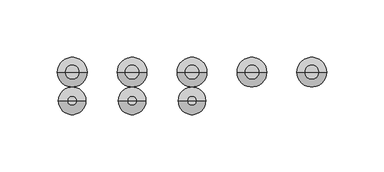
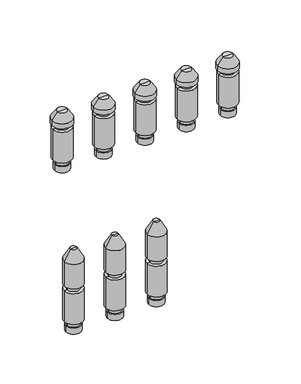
"""IFC4 building model written with IfcOpenShell, lengths in millimetres: valve geometry, PL AT_Manifold_FT-EV : 14 circuits."""

from ifc_helpers import new_model, si_unit, frame, origin, place, context, project, spatial, polyline, circle_curve, source, transform, mapped, element, save
from ifc_brep_helpers import plane_surface, cylinder_surface, revolved_surface, advanced_brep


def valve_3248c627(model_context):
    return source(origin(), model_context, "Body", "AdvancedBrep", [
        advanced_brep(
        [(189.4230769, 0.0, -35.11267), (208.4230769, 0.0, -35.11267), (198.9230769, 0.0, -35.11267), (189.4230769, 0.0, -27.0369646), (208.4230769, 0.0, -27.0369646), (190.9230769, 0.0, -27.0369646), (206.9230769, 0.0, -27.0369646), (190.9230769, 0.0, -20.330253), (206.9230769, 0.0, -20.330253), (186.9230769, 0.0, -20.330253), (210.9230769, 0.0, -20.330253), (186.9230769, 0.0, 20.330253), (210.9230769, 0.0, 20.330253), (190.9230769, 0.0, 20.330253), (206.9230769, 0.0, 20.330253), (190.9230769, 0.0, 27.0474786), (206.9230769, 0.0, 27.0474786), (186.9230769, 0.0, 27.0474786), (210.9230769, 0.0, 27.0474786), (186.9230769, 0.0, 59.4084325), (210.9230769, 0.0, 59.4084325), (194.9230769, 0.0, 73.264839), (202.9230769, 0.0, 73.264839), (198.9230769, 0.0, 73.264839)],
        [
            (0, 1, circle_curve(frame((198.9230769, 0.0, -35.11267), z_axis=(0.0, 0.0, -1.0), x_axis=(1.0, 0.0, 0.0)), 9.5)),
            (1, 2),
            (2, 0),
            (1, 0, circle_curve(frame((198.9230769, 0.0, -35.11267), z_axis=(0.0, 0.0, -1.0), x_axis=(1.0, 0.0, 0.0)), 9.5)),
            (3, 4, circle_curve(frame((198.9230769, 0.0, -27.0369646), z_axis=(0.0, 0.0, -1.0), x_axis=(1.0, 0.0, 0.0)), 9.5)),
            (4, 1),
            (0, 3),
            (4, 3, circle_curve(frame((198.9230769, 0.0, -27.0369646), z_axis=(0.0, 0.0, -1.0), x_axis=(1.0, 0.0, 0.0)), 9.5)),
            (5, 6, circle_curve(frame((198.9230769, 0.0, -27.0369646), z_axis=(0.0, 0.0, -1.0), x_axis=(1.0, 0.0, 0.0)), 8.0)),
            (6, 4),
            (3, 5),
            (6, 5, circle_curve(frame((198.9230769, 0.0, -27.0369646), z_axis=(0.0, 0.0, -1.0), x_axis=(1.0, 0.0, 0.0)), 8.0)),
            (7, 8, circle_curve(frame((198.9230769, 0.0, -20.330253), z_axis=(0.0, 0.0, -1.0), x_axis=(1.0, 0.0, 0.0)), 8.0)),
            (8, 6),
            (5, 7),
            (8, 7, circle_curve(frame((198.9230769, 0.0, -20.330253), z_axis=(0.0, 0.0, -1.0), x_axis=(1.0, 0.0, 0.0)), 8.0)),
            (9, 10, circle_curve(frame((198.9230769, 0.0, -20.330253), z_axis=(0.0, 0.0, -1.0), x_axis=(1.0, 0.0, 0.0)), 12.0)),
            (10, 8),
            (7, 9),
            (10, 9, circle_curve(frame((198.9230769, 0.0, -20.330253), z_axis=(0.0, 0.0, -1.0), x_axis=(1.0, 0.0, 0.0)), 12.0)),
            (11, 12, circle_curve(frame((198.9230769, 0.0, 20.330253), z_axis=(0.0, 0.0, -1.0), x_axis=(1.0, 0.0, 0.0)), 12.0)),
            (12, 10),
            (9, 11),
            (12, 11, circle_curve(frame((198.9230769, 0.0, 20.330253), z_axis=(0.0, 0.0, -1.0), x_axis=(1.0, 0.0, 0.0)), 12.0)),
            (13, 14, circle_curve(frame((198.9230769, 0.0, 20.330253), z_axis=(0.0, 0.0, -1.0), x_axis=(1.0, 0.0, 0.0)), 8.0)),
            (14, 12),
            (11, 13),
            (14, 13, circle_curve(frame((198.9230769, 0.0, 20.330253), z_axis=(0.0, 0.0, -1.0), x_axis=(1.0, 0.0, 0.0)), 8.0)),
            (15, 16, circle_curve(frame((198.9230769, 0.0, 27.0474786), z_axis=(0.0, 0.0, -1.0), x_axis=(1.0, 0.0, 0.0)), 8.0)),
            (16, 14),
            (13, 15),
            (16, 15, circle_curve(frame((198.9230769, 0.0, 27.0474786), z_axis=(0.0, 0.0, -1.0), x_axis=(1.0, 0.0, 0.0)), 8.0)),
            (17, 18, circle_curve(frame((198.9230769, 0.0, 27.0474786), z_axis=(0.0, 0.0, -1.0), x_axis=(1.0, 0.0, 0.0)), 12.0)),
            (18, 16),
            (15, 17),
            (18, 17, circle_curve(frame((198.9230769, 0.0, 27.0474786), z_axis=(0.0, 0.0, -1.0), x_axis=(1.0, 0.0, 0.0)), 12.0)),
            (19, 20, circle_curve(frame((198.9230769, 0.0, 59.4084325), z_axis=(0.0, 0.0, -1.0), x_axis=(1.0, 0.0, 0.0)), 12.0)),
            (20, 18),
            (17, 19),
            (20, 19, circle_curve(frame((198.9230769, 0.0, 59.4084325), z_axis=(0.0, 0.0, -1.0), x_axis=(1.0, 0.0, 0.0)), 12.0)),
            (21, 22, circle_curve(frame((198.9230769, 0.0, 73.264839), z_axis=(0.0, 0.0, -1.0), x_axis=(1.0, 0.0, 0.0)), 4.0)),
            (22, 20),
            (19, 21),
            (22, 21, circle_curve(frame((198.9230769, 0.0, 73.264839), z_axis=(0.0, 0.0, -1.0), x_axis=(1.0, 0.0, 0.0)), 4.0)),
            (23, 22),
            (21, 23),
        ],
        [
            plane_surface(frame((198.9230769, 0.0, -35.11267), z_axis=(0.0, 0.0, -1.0), x_axis=(1.0, 0.0, 0.0))),
            cylinder_surface(frame((198.9230769, 0.0, 58.264839), z_axis=(0.0, 0.0, 1.0), x_axis=(1.0, 0.0, 0.0)), 9.5),
            plane_surface(frame((198.9230769, 0.0, -27.0369646), z_axis=(0.0, 0.0, 1.0), x_axis=(1.0, 0.0, 0.0))),
            cylinder_surface(frame((198.9230769, 0.0, 58.264839), z_axis=(0.0, 0.0, 1.0), x_axis=(1.0, 0.0, 0.0)), 8.0),
            plane_surface(frame((198.9230769, 0.0, -20.330253), z_axis=(0.0, 0.0, -1.0), x_axis=(1.0, 0.0, 0.0))),
            cylinder_surface(frame((198.9230769, 0.0, 58.264839), z_axis=(0.0, 0.0, 1.0), x_axis=(1.0, 0.0, 0.0)), 12.0),
            plane_surface(frame((198.9230769, 0.0, 20.330253), z_axis=(0.0, 0.0, 1.0), x_axis=(1.0, 0.0, 0.0))),
            plane_surface(frame((198.9230769, 0.0, 27.0474786), z_axis=(0.0, 0.0, -1.0), x_axis=(1.0, 0.0, 0.0))),
            revolved_surface(polyline([(210.9230769, 0.0, 59.4084325), (202.9230769, 0.0, 73.264839)]), (198.9230769, 0.0, 58.264839), (0.0, 0.0, 1.0)),
            plane_surface(frame((198.9230769, 0.0, 73.264839), z_axis=(0.0, 0.0, 1.0), x_axis=(1.0, 0.0, 0.0))),
        ],
        [
            (0, [[1, 2, 3]]),
            (0, [[4, -3, -2]]),
            (1, [[5, 6, -1, 7]]),
            (1, [[8, -7, -4, -6]]),
            (2, [[9, 10, -5, 11]]),
            (2, [[12, -11, -8, -10]]),
            (3, [[13, 14, -9, 15]]),
            (3, [[16, -15, -12, -14]]),
            (4, [[17, 18, -13, 19]]),
            (4, [[20, -19, -16, -18]]),
            (5, [[21, 22, -17, 23]]),
            (5, [[24, -23, -20, -22]]),
            (6, [[25, 26, -21, 27]]),
            (6, [[28, -27, -24, -26]]),
            (3, [[29, 30, -25, 31]]),
            (3, [[32, -31, -28, -30]]),
            (7, [[33, 34, -29, 35]]),
            (7, [[36, -35, -32, -34]]),
            (5, [[37, 38, -33, 39]]),
            (5, [[40, -39, -36, -38]]),
            (8, [[41, 42, -37, 43]]),
            (8, [[44, -43, -40, -42]]),
            (9, [[45, -41, 46]]),
            (9, [[-46, -44, -45]]),
        ],
    ),
        advanced_brep(
        [(137.1153846, 0.0, -35.11267), (156.1153846, 0.0, -35.11267), (146.6153846, 0.0, -35.11267), (137.1153846, 0.0, -27.0369646), (156.1153846, 0.0, -27.0369646), (138.6153846, 0.0, -27.0369646), (154.6153846, 0.0, -27.0369646), (138.6153846, 0.0, -20.330253), (154.6153846, 0.0, -20.330253), (134.6153846, 0.0, -20.330253), (158.6153846, 0.0, -20.330253), (134.6153846, 0.0, 20.330253), (158.6153846, 0.0, 20.330253), (138.6153846, 0.0, 20.330253), (154.6153846, 0.0, 20.330253), (138.6153846, 0.0, 27.0474786), (154.6153846, 0.0, 27.0474786), (134.6153846, 0.0, 27.0474786), (158.6153846, 0.0, 27.0474786), (134.6153846, 0.0, 59.4084325), (158.6153846, 0.0, 59.4084325), (142.6153846, 0.0, 73.264839), (150.6153846, 0.0, 73.264839), (146.6153846, 0.0, 73.264839)],
        [
            (0, 1, circle_curve(frame((146.6153846, 0.0, -35.11267), z_axis=(0.0, 0.0, -1.0), x_axis=(1.0, 0.0, 0.0)), 9.5)),
            (1, 2),
            (2, 0),
            (1, 0, circle_curve(frame((146.6153846, 0.0, -35.11267), z_axis=(0.0, 0.0, -1.0), x_axis=(1.0, 0.0, 0.0)), 9.5)),
            (3, 4, circle_curve(frame((146.6153846, 0.0, -27.0369646), z_axis=(0.0, 0.0, -1.0), x_axis=(1.0, 0.0, 0.0)), 9.5)),
            (4, 1),
            (0, 3),
            (4, 3, circle_curve(frame((146.6153846, 0.0, -27.0369646), z_axis=(0.0, 0.0, -1.0), x_axis=(1.0, 0.0, 0.0)), 9.5)),
            (5, 6, circle_curve(frame((146.6153846, 0.0, -27.0369646), z_axis=(0.0, 0.0, -1.0), x_axis=(1.0, 0.0, 0.0)), 8.0)),
            (6, 4),
            (3, 5),
            (6, 5, circle_curve(frame((146.6153846, 0.0, -27.0369646), z_axis=(0.0, 0.0, -1.0), x_axis=(1.0, 0.0, 0.0)), 8.0)),
            (7, 8, circle_curve(frame((146.6153846, 0.0, -20.330253), z_axis=(0.0, 0.0, -1.0), x_axis=(1.0, 0.0, 0.0)), 8.0)),
            (8, 6),
            (5, 7),
            (8, 7, circle_curve(frame((146.6153846, 0.0, -20.330253), z_axis=(0.0, 0.0, -1.0), x_axis=(1.0, 0.0, 0.0)), 8.0)),
            (9, 10, circle_curve(frame((146.6153846, 0.0, -20.330253), z_axis=(0.0, 0.0, -1.0), x_axis=(1.0, 0.0, 0.0)), 12.0)),
            (10, 8),
            (7, 9),
            (10, 9, circle_curve(frame((146.6153846, 0.0, -20.330253), z_axis=(0.0, 0.0, -1.0), x_axis=(1.0, 0.0, 0.0)), 12.0)),
            (11, 12, circle_curve(frame((146.6153846, 0.0, 20.330253), z_axis=(0.0, 0.0, -1.0), x_axis=(1.0, 0.0, 0.0)), 12.0)),
            (12, 10),
            (9, 11),
            (12, 11, circle_curve(frame((146.6153846, 0.0, 20.330253), z_axis=(0.0, 0.0, -1.0), x_axis=(1.0, 0.0, 0.0)), 12.0)),
            (13, 14, circle_curve(frame((146.6153846, 0.0, 20.330253), z_axis=(0.0, 0.0, -1.0), x_axis=(1.0, 0.0, 0.0)), 8.0)),
            (14, 12),
            (11, 13),
            (14, 13, circle_curve(frame((146.6153846, 0.0, 20.330253), z_axis=(0.0, 0.0, -1.0), x_axis=(1.0, 0.0, 0.0)), 8.0)),
            (15, 16, circle_curve(frame((146.6153846, 0.0, 27.0474786), z_axis=(0.0, 0.0, -1.0), x_axis=(1.0, 0.0, 0.0)), 8.0)),
            (16, 14),
            (13, 15),
            (16, 15, circle_curve(frame((146.6153846, 0.0, 27.0474786), z_axis=(0.0, 0.0, -1.0), x_axis=(1.0, 0.0, 0.0)), 8.0)),
            (17, 18, circle_curve(frame((146.6153846, 0.0, 27.0474786), z_axis=(0.0, 0.0, -1.0), x_axis=(1.0, 0.0, 0.0)), 12.0)),
            (18, 16),
            (15, 17),
            (18, 17, circle_curve(frame((146.6153846, 0.0, 27.0474786), z_axis=(0.0, 0.0, -1.0), x_axis=(1.0, 0.0, 0.0)), 12.0)),
            (19, 20, circle_curve(frame((146.6153846, 0.0, 59.4084325), z_axis=(0.0, 0.0, -1.0), x_axis=(1.0, 0.0, 0.0)), 12.0)),
            (20, 18),
            (17, 19),
            (20, 19, circle_curve(frame((146.6153846, 0.0, 59.4084325), z_axis=(0.0, 0.0, -1.0), x_axis=(1.0, 0.0, 0.0)), 12.0)),
            (21, 22, circle_curve(frame((146.6153846, 0.0, 73.264839), z_axis=(0.0, 0.0, -1.0), x_axis=(1.0, 0.0, 0.0)), 4.0)),
            (22, 20),
            (19, 21),
            (22, 21, circle_curve(frame((146.6153846, 0.0, 73.264839), z_axis=(0.0, 0.0, -1.0), x_axis=(1.0, 0.0, 0.0)), 4.0)),
            (23, 22),
            (21, 23),
        ],
        [
            plane_surface(frame((146.6153846, 0.0, -35.11267), z_axis=(0.0, 0.0, -1.0), x_axis=(1.0, 0.0, 0.0))),
            cylinder_surface(frame((146.6153846, 0.0, 58.264839), z_axis=(0.0, 0.0, 1.0), x_axis=(1.0, 0.0, 0.0)), 9.5),
            plane_surface(frame((146.6153846, 0.0, -27.0369646), z_axis=(0.0, 0.0, 1.0), x_axis=(1.0, 0.0, 0.0))),
            cylinder_surface(frame((146.6153846, 0.0, 58.264839), z_axis=(0.0, 0.0, 1.0), x_axis=(1.0, 0.0, 0.0)), 8.0),
            plane_surface(frame((146.6153846, 0.0, -20.330253), z_axis=(0.0, 0.0, -1.0), x_axis=(1.0, 0.0, 0.0))),
            cylinder_surface(frame((146.6153846, 0.0, 58.264839), z_axis=(0.0, 0.0, 1.0), x_axis=(1.0, 0.0, 0.0)), 12.0),
            plane_surface(frame((146.6153846, 0.0, 20.330253), z_axis=(0.0, 0.0, 1.0), x_axis=(1.0, 0.0, 0.0))),
            plane_surface(frame((146.6153846, 0.0, 27.0474786), z_axis=(0.0, 0.0, -1.0), x_axis=(1.0, 0.0, 0.0))),
            revolved_surface(polyline([(158.6153846, 0.0, 59.4084325), (150.6153846, 0.0, 73.264839)]), (146.6153846, 0.0, 58.264839), (0.0, 0.0, 1.0)),
            plane_surface(frame((146.6153846, 0.0, 73.264839), z_axis=(0.0, 0.0, 1.0), x_axis=(1.0, 0.0, 0.0))),
        ],
        [
            (0, [[1, 2, 3]]),
            (0, [[4, -3, -2]]),
            (1, [[5, 6, -1, 7]]),
            (1, [[8, -7, -4, -6]]),
            (2, [[9, 10, -5, 11]]),
            (2, [[12, -11, -8, -10]]),
            (3, [[13, 14, -9, 15]]),
            (3, [[16, -15, -12, -14]]),
            (4, [[17, 18, -13, 19]]),
            (4, [[20, -19, -16, -18]]),
            (5, [[21, 22, -17, 23]]),
            (5, [[24, -23, -20, -22]]),
            (6, [[25, 26, -21, 27]]),
            (6, [[28, -27, -24, -26]]),
            (3, [[29, 30, -25, 31]]),
            (3, [[32, -31, -28, -30]]),
            (7, [[33, 34, -29, 35]]),
            (7, [[36, -35, -32, -34]]),
            (5, [[37, 38, -33, 39]]),
            (5, [[40, -39, -36, -38]]),
            (8, [[41, 42, -37, 43]]),
            (8, [[44, -43, -40, -42]]),
            (9, [[45, -41, 46]]),
            (9, [[-46, -44, -45]]),
        ],
    ),
        advanced_brep(
        [(294.0384615, 25.0, 164.88733), (313.0384615, 25.0, 164.88733), (303.5384615, 25.0, 164.88733), (294.0384615, 25.0, 172.9630354), (313.0384615, 25.0, 172.9630354), (295.5384615, 25.0, 172.9630354), (311.5384615, 25.0, 172.9630354), (295.5384615, 25.0, 179.669747), (311.5384615, 25.0, 179.669747), (291.5384615, 25.0, 179.669747), (315.5384615, 25.0, 179.669747), (291.5384615, 25.0, 220.330253), (315.5384615, 25.0, 220.330253), (295.5384615, 25.0, 220.330253), (311.5384615, 25.0, 220.330253), (295.5384615, 25.0, 226.0474786), (311.5384615, 25.0, 226.0474786), (290.5384615, 25.0, 226.0474786), (316.5384615, 25.0, 226.0474786), (290.5384615, 25.0, 232.337955), (316.5384615, 25.0, 232.337955), (297.1936394, 25.0, 241.842534), (309.8832837, 25.0, 241.842534), (303.5384615, 25.0, 241.842534)],
        [
            (0, 1, circle_curve(frame((303.5384615, 25.0, 164.88733), z_axis=(0.0, 0.0, -1.0), x_axis=(1.0, 0.0, 0.0)), 9.5)),
            (1, 2),
            (2, 0),
            (1, 0, circle_curve(frame((303.5384615, 25.0, 164.88733), z_axis=(0.0, 0.0, -1.0), x_axis=(1.0, 0.0, 0.0)), 9.5)),
            (3, 4, circle_curve(frame((303.5384615, 25.0, 172.9630354), z_axis=(0.0, 0.0, -1.0), x_axis=(1.0, 0.0, 0.0)), 9.5)),
            (4, 1),
            (0, 3),
            (4, 3, circle_curve(frame((303.5384615, 25.0, 172.9630354), z_axis=(0.0, 0.0, -1.0), x_axis=(1.0, 0.0, 0.0)), 9.5)),
            (5, 6, circle_curve(frame((303.5384615, 25.0, 172.9630354), z_axis=(0.0, 0.0, -1.0), x_axis=(1.0, 0.0, 0.0)), 8.0)),
            (6, 4),
            (3, 5),
            (6, 5, circle_curve(frame((303.5384615, 25.0, 172.9630354), z_axis=(0.0, 0.0, -1.0), x_axis=(1.0, 0.0, 0.0)), 8.0)),
            (7, 8, circle_curve(frame((303.5384615, 25.0, 179.669747), z_axis=(0.0, 0.0, -1.0), x_axis=(1.0, 0.0, 0.0)), 8.0)),
            (8, 6),
            (5, 7),
            (8, 7, circle_curve(frame((303.5384615, 25.0, 179.669747), z_axis=(0.0, 0.0, -1.0), x_axis=(1.0, 0.0, 0.0)), 8.0)),
            (9, 10, circle_curve(frame((303.5384615, 25.0, 179.669747), z_axis=(0.0, 0.0, -1.0), x_axis=(1.0, 0.0, 0.0)), 12.0)),
            (10, 8),
            (7, 9),
            (10, 9, circle_curve(frame((303.5384615, 25.0, 179.669747), z_axis=(0.0, 0.0, -1.0), x_axis=(1.0, 0.0, 0.0)), 12.0)),
            (11, 12, circle_curve(frame((303.5384615, 25.0, 220.330253), z_axis=(0.0, 0.0, -1.0), x_axis=(1.0, 0.0, 0.0)), 12.0)),
            (12, 10),
            (9, 11),
            (12, 11, circle_curve(frame((303.5384615, 25.0, 220.330253), z_axis=(0.0, 0.0, -1.0), x_axis=(1.0, 0.0, 0.0)), 12.0)),
            (13, 14, circle_curve(frame((303.5384615, 25.0, 220.330253), z_axis=(0.0, 0.0, -1.0), x_axis=(1.0, 0.0, 0.0)), 8.0)),
            (14, 12),
            (11, 13),
            (14, 13, circle_curve(frame((303.5384615, 25.0, 220.330253), z_axis=(0.0, 0.0, -1.0), x_axis=(1.0, 0.0, 0.0)), 8.0)),
            (15, 16, circle_curve(frame((303.5384615, 25.0, 226.0474786), z_axis=(0.0, 0.0, -1.0), x_axis=(1.0, 0.0, 0.0)), 8.0)),
            (16, 14),
            (13, 15),
            (16, 15, circle_curve(frame((303.5384615, 25.0, 226.0474786), z_axis=(0.0, 0.0, -1.0), x_axis=(1.0, 0.0, 0.0)), 8.0)),
            (17, 18, circle_curve(frame((303.5384615, 25.0, 226.0474786), z_axis=(0.0, 0.0, -1.0), x_axis=(1.0, 0.0, 0.0)), 13.0)),
            (18, 16),
            (15, 17),
            (18, 17, circle_curve(frame((303.5384615, 25.0, 226.0474786), z_axis=(0.0, 0.0, -1.0), x_axis=(1.0, 0.0, 0.0)), 13.0)),
            (19, 20, circle_curve(frame((303.5384615, 25.0, 232.337955), z_axis=(0.0, 0.0, -1.0), x_axis=(1.0, 0.0, 0.0)), 13.0)),
            (20, 18),
            (17, 19),
            (20, 19, circle_curve(frame((303.5384615, 25.0, 232.337955), z_axis=(0.0, 0.0, -1.0), x_axis=(1.0, 0.0, 0.0)), 13.0)),
            (21, 22, circle_curve(frame((303.5384615, 25.0, 241.842534), z_axis=(0.0, 0.0, -1.0), x_axis=(1.0, 0.0, 0.0)), 6.3448221)),
            (22, 20),
            (19, 21),
            (22, 21, circle_curve(frame((303.5384615, 25.0, 241.842534), z_axis=(0.0, 0.0, -1.0), x_axis=(1.0, 0.0, 0.0)), 6.3448221)),
            (23, 22),
            (21, 23),
        ],
        [
            plane_surface(frame((303.5384615, 25.0, 164.88733), z_axis=(0.0, 0.0, -1.0), x_axis=(1.0, 0.0, 0.0))),
            cylinder_surface(frame((303.5384615, 25.0, 237.7026565), z_axis=(0.0, 0.0, 1.0), x_axis=(1.0, 0.0, 0.0)), 9.5),
            plane_surface(frame((303.5384615, 25.0, 172.9630354), z_axis=(0.0, 0.0, 1.0), x_axis=(1.0, 0.0, 0.0))),
            cylinder_surface(frame((303.5384615, 25.0, 237.7026565), z_axis=(0.0, 0.0, 1.0), x_axis=(1.0, 0.0, 0.0)), 8.0),
            plane_surface(frame((303.5384615, 25.0, 179.669747), z_axis=(0.0, 0.0, -1.0), x_axis=(1.0, 0.0, 0.0))),
            cylinder_surface(frame((303.5384615, 25.0, 237.7026565), z_axis=(0.0, 0.0, 1.0), x_axis=(1.0, 0.0, 0.0)), 12.0),
            plane_surface(frame((303.5384615, 25.0, 220.330253), z_axis=(0.0, 0.0, 1.0), x_axis=(1.0, 0.0, 0.0))),
            plane_surface(frame((303.5384615, 25.0, 226.0474786), z_axis=(0.0, 0.0, -1.0), x_axis=(1.0, 0.0, 0.0))),
            cylinder_surface(frame((303.5384615, 25.0, 237.7026565), z_axis=(0.0, 0.0, 1.0), x_axis=(1.0, 0.0, 0.0)), 13.0),
            revolved_surface(polyline([(316.5384615, 25.0, 232.337955), (309.8832837, 25.0, 241.842534)]), (303.5384615, 25.0, 237.7026565), (0.0, 0.0, 1.0)),
            plane_surface(frame((303.5384615, 25.0, 241.842534), z_axis=(0.0, 0.0, 1.0), x_axis=(1.0, 0.0, 0.0))),
        ],
        [
            (0, [[1, 2, 3]]),
            (0, [[4, -3, -2]]),
            (1, [[5, 6, -1, 7]]),
            (1, [[8, -7, -4, -6]]),
            (2, [[9, 10, -5, 11]]),
            (2, [[12, -11, -8, -10]]),
            (3, [[13, 14, -9, 15]]),
            (3, [[16, -15, -12, -14]]),
            (4, [[17, 18, -13, 19]]),
            (4, [[20, -19, -16, -18]]),
            (5, [[21, 22, -17, 23]]),
            (5, [[24, -23, -20, -22]]),
            (6, [[25, 26, -21, 27]]),
            (6, [[28, -27, -24, -26]]),
            (3, [[29, 30, -25, 31]]),
            (3, [[32, -31, -28, -30]]),
            (7, [[33, 34, -29, 35]]),
            (7, [[36, -35, -32, -34]]),
            (8, [[37, 38, -33, 39]]),
            (8, [[40, -39, -36, -38]]),
            (9, [[41, 42, -37, 43]]),
            (9, [[44, -43, -40, -42]]),
            (10, [[45, -41, 46]]),
            (10, [[-46, -44, -45]]),
        ],
    ),
        advanced_brep(
        [(241.7307692, 25.0, 164.88733), (260.7307692, 25.0, 164.88733), (251.2307692, 25.0, 164.88733), (241.7307692, 25.0, 172.9630354), (260.7307692, 25.0, 172.9630354), (243.2307692, 25.0, 172.9630354), (259.2307692, 25.0, 172.9630354), (243.2307692, 25.0, 179.669747), (259.2307692, 25.0, 179.669747), (239.2307692, 25.0, 179.669747), (263.2307692, 25.0, 179.669747), (239.2307692, 25.0, 220.330253), (263.2307692, 25.0, 220.330253), (243.2307692, 25.0, 220.330253), (259.2307692, 25.0, 220.330253), (243.2307692, 25.0, 226.0474786), (259.2307692, 25.0, 226.0474786), (238.2307692, 25.0, 226.0474786), (264.2307692, 25.0, 226.0474786), (238.2307692, 25.0, 232.337955), (264.2307692, 25.0, 232.337955), (244.8859471, 25.0, 241.842534), (257.5755914, 25.0, 241.842534), (251.2307692, 25.0, 241.842534)],
        [
            (0, 1, circle_curve(frame((251.2307692, 25.0, 164.88733), z_axis=(0.0, 0.0, -1.0), x_axis=(1.0, 0.0, 0.0)), 9.5)),
            (1, 2),
            (2, 0),
            (1, 0, circle_curve(frame((251.2307692, 25.0, 164.88733), z_axis=(0.0, 0.0, -1.0), x_axis=(1.0, 0.0, 0.0)), 9.5)),
            (3, 4, circle_curve(frame((251.2307692, 25.0, 172.9630354), z_axis=(0.0, 0.0, -1.0), x_axis=(1.0, 0.0, 0.0)), 9.5)),
            (4, 1),
            (0, 3),
            (4, 3, circle_curve(frame((251.2307692, 25.0, 172.9630354), z_axis=(0.0, 0.0, -1.0), x_axis=(1.0, 0.0, 0.0)), 9.5)),
            (5, 6, circle_curve(frame((251.2307692, 25.0, 172.9630354), z_axis=(0.0, 0.0, -1.0), x_axis=(1.0, 0.0, 0.0)), 8.0)),
            (6, 4),
            (3, 5),
            (6, 5, circle_curve(frame((251.2307692, 25.0, 172.9630354), z_axis=(0.0, 0.0, -1.0), x_axis=(1.0, 0.0, 0.0)), 8.0)),
            (7, 8, circle_curve(frame((251.2307692, 25.0, 179.669747), z_axis=(0.0, 0.0, -1.0), x_axis=(1.0, 0.0, 0.0)), 8.0)),
            (8, 6),
            (5, 7),
            (8, 7, circle_curve(frame((251.2307692, 25.0, 179.669747), z_axis=(0.0, 0.0, -1.0), x_axis=(1.0, 0.0, 0.0)), 8.0)),
            (9, 10, circle_curve(frame((251.2307692, 25.0, 179.669747), z_axis=(0.0, 0.0, -1.0), x_axis=(1.0, 0.0, 0.0)), 12.0)),
            (10, 8),
            (7, 9),
            (10, 9, circle_curve(frame((251.2307692, 25.0, 179.669747), z_axis=(0.0, 0.0, -1.0), x_axis=(1.0, 0.0, 0.0)), 12.0)),
            (11, 12, circle_curve(frame((251.2307692, 25.0, 220.330253), z_axis=(0.0, 0.0, -1.0), x_axis=(1.0, 0.0, 0.0)), 12.0)),
            (12, 10),
            (9, 11),
            (12, 11, circle_curve(frame((251.2307692, 25.0, 220.330253), z_axis=(0.0, 0.0, -1.0), x_axis=(1.0, 0.0, 0.0)), 12.0)),
            (13, 14, circle_curve(frame((251.2307692, 25.0, 220.330253), z_axis=(0.0, 0.0, -1.0), x_axis=(1.0, 0.0, 0.0)), 8.0)),
            (14, 12),
            (11, 13),
            (14, 13, circle_curve(frame((251.2307692, 25.0, 220.330253), z_axis=(0.0, 0.0, -1.0), x_axis=(1.0, 0.0, 0.0)), 8.0)),
            (15, 16, circle_curve(frame((251.2307692, 25.0, 226.0474786), z_axis=(0.0, 0.0, -1.0), x_axis=(1.0, 0.0, 0.0)), 8.0)),
            (16, 14),
            (13, 15),
            (16, 15, circle_curve(frame((251.2307692, 25.0, 226.0474786), z_axis=(0.0, 0.0, -1.0), x_axis=(1.0, 0.0, 0.0)), 8.0)),
            (17, 18, circle_curve(frame((251.2307692, 25.0, 226.0474786), z_axis=(0.0, 0.0, -1.0), x_axis=(1.0, 0.0, 0.0)), 13.0)),
            (18, 16),
            (15, 17),
            (18, 17, circle_curve(frame((251.2307692, 25.0, 226.0474786), z_axis=(0.0, 0.0, -1.0), x_axis=(1.0, 0.0, 0.0)), 13.0)),
            (19, 20, circle_curve(frame((251.2307692, 25.0, 232.337955), z_axis=(0.0, 0.0, -1.0), x_axis=(1.0, 0.0, 0.0)), 13.0)),
            (20, 18),
            (17, 19),
            (20, 19, circle_curve(frame((251.2307692, 25.0, 232.337955), z_axis=(0.0, 0.0, -1.0), x_axis=(1.0, 0.0, 0.0)), 13.0)),
            (21, 22, circle_curve(frame((251.2307692, 25.0, 241.842534), z_axis=(0.0, 0.0, -1.0), x_axis=(1.0, 0.0, 0.0)), 6.3448221)),
            (22, 20),
            (19, 21),
            (22, 21, circle_curve(frame((251.2307692, 25.0, 241.842534), z_axis=(0.0, 0.0, -1.0), x_axis=(1.0, 0.0, 0.0)), 6.3448221)),
            (23, 22),
            (21, 23),
        ],
        [
            plane_surface(frame((251.2307692, 25.0, 164.88733), z_axis=(0.0, 0.0, -1.0), x_axis=(1.0, 0.0, 0.0))),
            cylinder_surface(frame((251.2307692, 25.0, 237.7026565), z_axis=(0.0, 0.0, 1.0), x_axis=(1.0, 0.0, 0.0)), 9.5),
            plane_surface(frame((251.2307692, 25.0, 172.9630354), z_axis=(0.0, 0.0, 1.0), x_axis=(1.0, 0.0, 0.0))),
            cylinder_surface(frame((251.2307692, 25.0, 237.7026565), z_axis=(0.0, 0.0, 1.0), x_axis=(1.0, 0.0, 0.0)), 8.0),
            plane_surface(frame((251.2307692, 25.0, 179.669747), z_axis=(0.0, 0.0, -1.0), x_axis=(1.0, 0.0, 0.0))),
            cylinder_surface(frame((251.2307692, 25.0, 237.7026565), z_axis=(0.0, 0.0, 1.0), x_axis=(1.0, 0.0, 0.0)), 12.0),
            plane_surface(frame((251.2307692, 25.0, 220.330253), z_axis=(0.0, 0.0, 1.0), x_axis=(1.0, 0.0, 0.0))),
            plane_surface(frame((251.2307692, 25.0, 226.0474786), z_axis=(0.0, 0.0, -1.0), x_axis=(1.0, 0.0, 0.0))),
            cylinder_surface(frame((251.2307692, 25.0, 237.7026565), z_axis=(0.0, 0.0, 1.0), x_axis=(1.0, 0.0, 0.0)), 13.0),
            revolved_surface(polyline([(264.2307692, 25.0, 232.337955), (257.5755914, 25.0, 241.842534)]), (251.2307692, 25.0, 237.7026565), (0.0, 0.0, 1.0)),
            plane_surface(frame((251.2307692, 25.0, 241.842534), z_axis=(0.0, 0.0, 1.0), x_axis=(1.0, 0.0, 0.0))),
        ],
        [
            (0, [[1, 2, 3]]),
            (0, [[4, -3, -2]]),
            (1, [[5, 6, -1, 7]]),
            (1, [[8, -7, -4, -6]]),
            (2, [[9, 10, -5, 11]]),
            (2, [[12, -11, -8, -10]]),
            (3, [[13, 14, -9, 15]]),
            (3, [[16, -15, -12, -14]]),
            (4, [[17, 18, -13, 19]]),
            (4, [[20, -19, -16, -18]]),
            (5, [[21, 22, -17, 23]]),
            (5, [[24, -23, -20, -22]]),
            (6, [[25, 26, -21, 27]]),
            (6, [[28, -27, -24, -26]]),
            (3, [[29, 30, -25, 31]]),
            (3, [[32, -31, -28, -30]]),
            (7, [[33, 34, -29, 35]]),
            (7, [[36, -35, -32, -34]]),
            (8, [[37, 38, -33, 39]]),
            (8, [[40, -39, -36, -38]]),
            (9, [[41, 42, -37, 43]]),
            (9, [[44, -43, -40, -42]]),
            (10, [[45, -41, 46]]),
            (10, [[-46, -44, -45]]),
        ],
    ),
        advanced_brep(
        [(189.4230769, 25.0, 164.88733), (208.4230769, 25.0, 164.88733), (198.9230769, 25.0, 164.88733), (189.4230769, 25.0, 172.9630354), (208.4230769, 25.0, 172.9630354), (190.9230769, 25.0, 172.9630354), (206.9230769, 25.0, 172.9630354), (190.9230769, 25.0, 179.669747), (206.9230769, 25.0, 179.669747), (186.9230769, 25.0, 179.669747), (210.9230769, 25.0, 179.669747), (186.9230769, 25.0, 220.330253), (210.9230769, 25.0, 220.330253), (190.9230769, 25.0, 220.330253), (206.9230769, 25.0, 220.330253), (190.9230769, 25.0, 226.0474786), (206.9230769, 25.0, 226.0474786), (185.9230769, 25.0, 226.0474786), (211.9230769, 25.0, 226.0474786), (185.9230769, 25.0, 232.337955), (211.9230769, 25.0, 232.337955), (192.5782548, 25.0, 241.842534), (205.267899, 25.0, 241.842534), (198.9230769, 25.0, 241.842534)],
        [
            (0, 1, circle_curve(frame((198.9230769, 25.0, 164.88733), z_axis=(0.0, 0.0, -1.0), x_axis=(1.0, 0.0, 0.0)), 9.5)),
            (1, 2),
            (2, 0),
            (1, 0, circle_curve(frame((198.9230769, 25.0, 164.88733), z_axis=(0.0, 0.0, -1.0), x_axis=(1.0, 0.0, 0.0)), 9.5)),
            (3, 4, circle_curve(frame((198.9230769, 25.0, 172.9630354), z_axis=(0.0, 0.0, -1.0), x_axis=(1.0, 0.0, 0.0)), 9.5)),
            (4, 1),
            (0, 3),
            (4, 3, circle_curve(frame((198.9230769, 25.0, 172.9630354), z_axis=(0.0, 0.0, -1.0), x_axis=(1.0, 0.0, 0.0)), 9.5)),
            (5, 6, circle_curve(frame((198.9230769, 25.0, 172.9630354), z_axis=(0.0, 0.0, -1.0), x_axis=(1.0, 0.0, 0.0)), 8.0)),
            (6, 4),
            (3, 5),
            (6, 5, circle_curve(frame((198.9230769, 25.0, 172.9630354), z_axis=(0.0, 0.0, -1.0), x_axis=(1.0, 0.0, 0.0)), 8.0)),
            (7, 8, circle_curve(frame((198.9230769, 25.0, 179.669747), z_axis=(0.0, 0.0, -1.0), x_axis=(1.0, 0.0, 0.0)), 8.0)),
            (8, 6),
            (5, 7),
            (8, 7, circle_curve(frame((198.9230769, 25.0, 179.669747), z_axis=(0.0, 0.0, -1.0), x_axis=(1.0, 0.0, 0.0)), 8.0)),
            (9, 10, circle_curve(frame((198.9230769, 25.0, 179.669747), z_axis=(0.0, 0.0, -1.0), x_axis=(1.0, 0.0, 0.0)), 12.0)),
            (10, 8),
            (7, 9),
            (10, 9, circle_curve(frame((198.9230769, 25.0, 179.669747), z_axis=(0.0, 0.0, -1.0), x_axis=(1.0, 0.0, 0.0)), 12.0)),
            (11, 12, circle_curve(frame((198.9230769, 25.0, 220.330253), z_axis=(0.0, 0.0, -1.0), x_axis=(1.0, 0.0, 0.0)), 12.0)),
            (12, 10),
            (9, 11),
            (12, 11, circle_curve(frame((198.9230769, 25.0, 220.330253), z_axis=(0.0, 0.0, -1.0), x_axis=(1.0, 0.0, 0.0)), 12.0)),
            (13, 14, circle_curve(frame((198.9230769, 25.0, 220.330253), z_axis=(0.0, 0.0, -1.0), x_axis=(1.0, 0.0, 0.0)), 8.0)),
            (14, 12),
            (11, 13),
            (14, 13, circle_curve(frame((198.9230769, 25.0, 220.330253), z_axis=(0.0, 0.0, -1.0), x_axis=(1.0, 0.0, 0.0)), 8.0)),
            (15, 16, circle_curve(frame((198.9230769, 25.0, 226.0474786), z_axis=(0.0, 0.0, -1.0), x_axis=(1.0, 0.0, 0.0)), 8.0)),
            (16, 14),
            (13, 15),
            (16, 15, circle_curve(frame((198.9230769, 25.0, 226.0474786), z_axis=(0.0, 0.0, -1.0), x_axis=(1.0, 0.0, 0.0)), 8.0)),
            (17, 18, circle_curve(frame((198.9230769, 25.0, 226.0474786), z_axis=(0.0, 0.0, -1.0), x_axis=(1.0, 0.0, 0.0)), 13.0)),
            (18, 16),
            (15, 17),
            (18, 17, circle_curve(frame((198.9230769, 25.0, 226.0474786), z_axis=(0.0, 0.0, -1.0), x_axis=(1.0, 0.0, 0.0)), 13.0)),
            (19, 20, circle_curve(frame((198.9230769, 25.0, 232.337955), z_axis=(0.0, 0.0, -1.0), x_axis=(1.0, 0.0, 0.0)), 13.0)),
            (20, 18),
            (17, 19),
            (20, 19, circle_curve(frame((198.9230769, 25.0, 232.337955), z_axis=(0.0, 0.0, -1.0), x_axis=(1.0, 0.0, 0.0)), 13.0)),
            (21, 22, circle_curve(frame((198.9230769, 25.0, 241.842534), z_axis=(0.0, 0.0, -1.0), x_axis=(1.0, 0.0, 0.0)), 6.3448221)),
            (22, 20),
            (19, 21),
            (22, 21, circle_curve(frame((198.9230769, 25.0, 241.842534), z_axis=(0.0, 0.0, -1.0), x_axis=(1.0, 0.0, 0.0)), 6.3448221)),
            (23, 22),
            (21, 23),
        ],
        [
            plane_surface(frame((198.9230769, 25.0, 164.88733), z_axis=(0.0, 0.0, -1.0), x_axis=(1.0, 0.0, 0.0))),
            cylinder_surface(frame((198.9230769, 25.0, 237.7026565), z_axis=(0.0, 0.0, 1.0), x_axis=(1.0, 0.0, 0.0)), 9.5),
            plane_surface(frame((198.9230769, 25.0, 172.9630354), z_axis=(0.0, 0.0, 1.0), x_axis=(1.0, 0.0, 0.0))),
            cylinder_surface(frame((198.9230769, 25.0, 237.7026565), z_axis=(0.0, 0.0, 1.0), x_axis=(1.0, 0.0, 0.0)), 8.0),
            plane_surface(frame((198.9230769, 25.0, 179.669747), z_axis=(0.0, 0.0, -1.0), x_axis=(1.0, 0.0, 0.0))),
            cylinder_surface(frame((198.9230769, 25.0, 237.7026565), z_axis=(0.0, 0.0, 1.0), x_axis=(1.0, 0.0, 0.0)), 12.0),
            plane_surface(frame((198.9230769, 25.0, 220.330253), z_axis=(0.0, 0.0, 1.0), x_axis=(1.0, 0.0, 0.0))),
            plane_surface(frame((198.9230769, 25.0, 226.0474786), z_axis=(0.0, 0.0, -1.0), x_axis=(1.0, 0.0, 0.0))),
            cylinder_surface(frame((198.9230769, 25.0, 237.7026565), z_axis=(0.0, 0.0, 1.0), x_axis=(1.0, 0.0, 0.0)), 13.0),
            revolved_surface(polyline([(211.9230769, 25.0, 232.337955), (205.267899, 25.0, 241.842534)]), (198.9230769, 25.0, 237.7026565), (0.0, 0.0, 1.0)),
            plane_surface(frame((198.9230769, 25.0, 241.842534), z_axis=(0.0, 0.0, 1.0), x_axis=(1.0, 0.0, 0.0))),
        ],
        [
            (0, [[1, 2, 3]]),
            (0, [[4, -3, -2]]),
            (1, [[5, 6, -1, 7]]),
            (1, [[8, -7, -4, -6]]),
            (2, [[9, 10, -5, 11]]),
            (2, [[12, -11, -8, -10]]),
            (3, [[13, 14, -9, 15]]),
            (3, [[16, -15, -12, -14]]),
            (4, [[17, 18, -13, 19]]),
            (4, [[20, -19, -16, -18]]),
            (5, [[21, 22, -17, 23]]),
            (5, [[24, -23, -20, -22]]),
            (6, [[25, 26, -21, 27]]),
            (6, [[28, -27, -24, -26]]),
            (3, [[29, 30, -25, 31]]),
            (3, [[32, -31, -28, -30]]),
            (7, [[33, 34, -29, 35]]),
            (7, [[36, -35, -32, -34]]),
            (8, [[37, 38, -33, 39]]),
            (8, [[40, -39, -36, -38]]),
            (9, [[41, 42, -37, 43]]),
            (9, [[44, -43, -40, -42]]),
            (10, [[45, -41, 46]]),
            (10, [[-46, -44, -45]]),
        ],
    ),
        advanced_brep(
        [(137.1153846, 25.0, 164.88733), (156.1153846, 25.0, 164.88733), (146.6153846, 25.0, 164.88733), (137.1153846, 25.0, 172.9630354), (156.1153846, 25.0, 172.9630354), (138.6153846, 25.0, 172.9630354), (154.6153846, 25.0, 172.9630354), (138.6153846, 25.0, 179.669747), (154.6153846, 25.0, 179.669747), (134.6153846, 25.0, 179.669747), (158.6153846, 25.0, 179.669747), (134.6153846, 25.0, 220.330253), (158.6153846, 25.0, 220.330253), (138.6153846, 25.0, 220.330253), (154.6153846, 25.0, 220.330253), (138.6153846, 25.0, 226.0474786), (154.6153846, 25.0, 226.0474786), (133.6153846, 25.0, 226.0474786), (159.6153846, 25.0, 226.0474786), (133.6153846, 25.0, 232.337955), (159.6153846, 25.0, 232.337955), (140.2705625, 25.0, 241.842534), (152.9602067, 25.0, 241.842534), (146.6153846, 25.0, 241.842534)],
        [
            (0, 1, circle_curve(frame((146.6153846, 25.0, 164.88733), z_axis=(0.0, 0.0, -1.0), x_axis=(1.0, 0.0, 0.0)), 9.5)),
            (1, 2),
            (2, 0),
            (1, 0, circle_curve(frame((146.6153846, 25.0, 164.88733), z_axis=(0.0, 0.0, -1.0), x_axis=(1.0, 0.0, 0.0)), 9.5)),
            (3, 4, circle_curve(frame((146.6153846, 25.0, 172.9630354), z_axis=(0.0, 0.0, -1.0), x_axis=(1.0, 0.0, 0.0)), 9.5)),
            (4, 1),
            (0, 3),
            (4, 3, circle_curve(frame((146.6153846, 25.0, 172.9630354), z_axis=(0.0, 0.0, -1.0), x_axis=(1.0, 0.0, 0.0)), 9.5)),
            (5, 6, circle_curve(frame((146.6153846, 25.0, 172.9630354), z_axis=(0.0, 0.0, -1.0), x_axis=(1.0, 0.0, 0.0)), 8.0)),
            (6, 4),
            (3, 5),
            (6, 5, circle_curve(frame((146.6153846, 25.0, 172.9630354), z_axis=(0.0, 0.0, -1.0), x_axis=(1.0, 0.0, 0.0)), 8.0)),
            (7, 8, circle_curve(frame((146.6153846, 25.0, 179.669747), z_axis=(0.0, 0.0, -1.0), x_axis=(1.0, 0.0, 0.0)), 8.0)),
            (8, 6),
            (5, 7),
            (8, 7, circle_curve(frame((146.6153846, 25.0, 179.669747), z_axis=(0.0, 0.0, -1.0), x_axis=(1.0, 0.0, 0.0)), 8.0)),
            (9, 10, circle_curve(frame((146.6153846, 25.0, 179.669747), z_axis=(0.0, 0.0, -1.0), x_axis=(1.0, 0.0, 0.0)), 12.0)),
            (10, 8),
            (7, 9),
            (10, 9, circle_curve(frame((146.6153846, 25.0, 179.669747), z_axis=(0.0, 0.0, -1.0), x_axis=(1.0, 0.0, 0.0)), 12.0)),
            (11, 12, circle_curve(frame((146.6153846, 25.0, 220.330253), z_axis=(0.0, 0.0, -1.0), x_axis=(1.0, 0.0, 0.0)), 12.0)),
            (12, 10),
            (9, 11),
            (12, 11, circle_curve(frame((146.6153846, 25.0, 220.330253), z_axis=(0.0, 0.0, -1.0), x_axis=(1.0, 0.0, 0.0)), 12.0)),
            (13, 14, circle_curve(frame((146.6153846, 25.0, 220.330253), z_axis=(0.0, 0.0, -1.0), x_axis=(1.0, 0.0, 0.0)), 8.0)),
            (14, 12),
            (11, 13),
            (14, 13, circle_curve(frame((146.6153846, 25.0, 220.330253), z_axis=(0.0, 0.0, -1.0), x_axis=(1.0, 0.0, 0.0)), 8.0)),
            (15, 16, circle_curve(frame((146.6153846, 25.0, 226.0474786), z_axis=(0.0, 0.0, -1.0), x_axis=(1.0, 0.0, 0.0)), 8.0)),
            (16, 14),
            (13, 15),
            (16, 15, circle_curve(frame((146.6153846, 25.0, 226.0474786), z_axis=(0.0, 0.0, -1.0), x_axis=(1.0, 0.0, 0.0)), 8.0)),
            (17, 18, circle_curve(frame((146.6153846, 25.0, 226.0474786), z_axis=(0.0, 0.0, -1.0), x_axis=(1.0, 0.0, 0.0)), 13.0)),
            (18, 16),
            (15, 17),
            (18, 17, circle_curve(frame((146.6153846, 25.0, 226.0474786), z_axis=(0.0, 0.0, -1.0), x_axis=(1.0, 0.0, 0.0)), 13.0)),
            (19, 20, circle_curve(frame((146.6153846, 25.0, 232.337955), z_axis=(0.0, 0.0, -1.0), x_axis=(1.0, 0.0, 0.0)), 13.0)),
            (20, 18),
            (17, 19),
            (20, 19, circle_curve(frame((146.6153846, 25.0, 232.337955), z_axis=(0.0, 0.0, -1.0), x_axis=(1.0, 0.0, 0.0)), 13.0)),
            (21, 22, circle_curve(frame((146.6153846, 25.0, 241.842534), z_axis=(0.0, 0.0, -1.0), x_axis=(1.0, 0.0, 0.0)), 6.3448221)),
            (22, 20),
            (19, 21),
            (22, 21, circle_curve(frame((146.6153846, 25.0, 241.842534), z_axis=(0.0, 0.0, -1.0), x_axis=(1.0, 0.0, 0.0)), 6.3448221)),
            (23, 22),
            (21, 23),
        ],
        [
            plane_surface(frame((146.6153846, 25.0, 164.88733), z_axis=(0.0, 0.0, -1.0), x_axis=(1.0, 0.0, 0.0))),
            cylinder_surface(frame((146.6153846, 25.0, 237.7026565), z_axis=(0.0, 0.0, 1.0), x_axis=(1.0, 0.0, 0.0)), 9.5),
            plane_surface(frame((146.6153846, 25.0, 172.9630354), z_axis=(0.0, 0.0, 1.0), x_axis=(1.0, 0.0, 0.0))),
            cylinder_surface(frame((146.6153846, 25.0, 237.7026565), z_axis=(0.0, 0.0, 1.0), x_axis=(1.0, 0.0, 0.0)), 8.0),
            plane_surface(frame((146.6153846, 25.0, 179.669747), z_axis=(0.0, 0.0, -1.0), x_axis=(1.0, 0.0, 0.0))),
            cylinder_surface(frame((146.6153846, 25.0, 237.7026565), z_axis=(0.0, 0.0, 1.0), x_axis=(1.0, 0.0, 0.0)), 12.0),
            plane_surface(frame((146.6153846, 25.0, 220.330253), z_axis=(0.0, 0.0, 1.0), x_axis=(1.0, 0.0, 0.0))),
            plane_surface(frame((146.6153846, 25.0, 226.0474786), z_axis=(0.0, 0.0, -1.0), x_axis=(1.0, 0.0, 0.0))),
            cylinder_surface(frame((146.6153846, 25.0, 237.7026565), z_axis=(0.0, 0.0, 1.0), x_axis=(1.0, 0.0, 0.0)), 13.0),
            revolved_surface(polyline([(159.6153846, 25.0, 232.337955), (152.9602067, 25.0, 241.842534)]), (146.6153846, 25.0, 237.7026565), (0.0, 0.0, 1.0)),
            plane_surface(frame((146.6153846, 25.0, 241.842534), z_axis=(0.0, 0.0, 1.0), x_axis=(1.0, 0.0, 0.0))),
        ],
        [
            (0, [[1, 2, 3]]),
            (0, [[4, -3, -2]]),
            (1, [[5, 6, -1, 7]]),
            (1, [[8, -7, -4, -6]]),
            (2, [[9, 10, -5, 11]]),
            (2, [[12, -11, -8, -10]]),
            (3, [[13, 14, -9, 15]]),
            (3, [[16, -15, -12, -14]]),
            (4, [[17, 18, -13, 19]]),
            (4, [[20, -19, -16, -18]]),
            (5, [[21, 22, -17, 23]]),
            (5, [[24, -23, -20, -22]]),
            (6, [[25, 26, -21, 27]]),
            (6, [[28, -27, -24, -26]]),
            (3, [[29, 30, -25, 31]]),
            (3, [[32, -31, -28, -30]]),
            (7, [[33, 34, -29, 35]]),
            (7, [[36, -35, -32, -34]]),
            (8, [[37, 38, -33, 39]]),
            (8, [[40, -39, -36, -38]]),
            (9, [[41, 42, -37, 43]]),
            (9, [[44, -43, -40, -42]]),
            (10, [[45, -41, 46]]),
            (10, [[-46, -44, -45]]),
        ],
    ),
        advanced_brep(
        [(84.8076923, 0.0, -35.11267), (103.8076923, 0.0, -35.11267), (94.3076923, 0.0, -35.11267), (84.8076923, 0.0, -27.0369646), (103.8076923, 0.0, -27.0369646), (86.3076923, 0.0, -27.0369646), (102.3076923, 0.0, -27.0369646), (86.3076923, 0.0, -20.330253), (102.3076923, 0.0, -20.330253), (82.3076923, 0.0, -20.330253), (106.3076923, 0.0, -20.330253), (82.3076923, 0.0, 20.330253), (106.3076923, 0.0, 20.330253), (86.3076923, 0.0, 20.330253), (102.3076923, 0.0, 20.330253), (86.3076923, 0.0, 27.0474786), (102.3076923, 0.0, 27.0474786), (82.3076923, 0.0, 27.0474786), (106.3076923, 0.0, 27.0474786), (82.3076923, 0.0, 59.4084325), (106.3076923, 0.0, 59.4084325), (90.3076923, 0.0, 73.264839), (98.3076923, 0.0, 73.264839), (94.3076923, 0.0, 73.264839)],
        [
            (0, 1, circle_curve(frame((94.3076923, 0.0, -35.11267), z_axis=(0.0, 0.0, -1.0), x_axis=(1.0, 0.0, 0.0)), 9.5)),
            (1, 2),
            (2, 0),
            (1, 0, circle_curve(frame((94.3076923, 0.0, -35.11267), z_axis=(0.0, 0.0, -1.0), x_axis=(1.0, 0.0, 0.0)), 9.5)),
            (3, 4, circle_curve(frame((94.3076923, 0.0, -27.0369646), z_axis=(0.0, 0.0, -1.0), x_axis=(1.0, 0.0, 0.0)), 9.5)),
            (4, 1),
            (0, 3),
            (4, 3, circle_curve(frame((94.3076923, 0.0, -27.0369646), z_axis=(0.0, 0.0, -1.0), x_axis=(1.0, 0.0, 0.0)), 9.5)),
            (5, 6, circle_curve(frame((94.3076923, 0.0, -27.0369646), z_axis=(0.0, 0.0, -1.0), x_axis=(1.0, 0.0, 0.0)), 8.0)),
            (6, 4),
            (3, 5),
            (6, 5, circle_curve(frame((94.3076923, 0.0, -27.0369646), z_axis=(0.0, 0.0, -1.0), x_axis=(1.0, 0.0, 0.0)), 8.0)),
            (7, 8, circle_curve(frame((94.3076923, 0.0, -20.330253), z_axis=(0.0, 0.0, -1.0), x_axis=(1.0, 0.0, 0.0)), 8.0)),
            (8, 6),
            (5, 7),
            (8, 7, circle_curve(frame((94.3076923, 0.0, -20.330253), z_axis=(0.0, 0.0, -1.0), x_axis=(1.0, 0.0, 0.0)), 8.0)),
            (9, 10, circle_curve(frame((94.3076923, 0.0, -20.330253), z_axis=(0.0, 0.0, -1.0), x_axis=(1.0, 0.0, 0.0)), 12.0)),
            (10, 8),
            (7, 9),
            (10, 9, circle_curve(frame((94.3076923, 0.0, -20.330253), z_axis=(0.0, 0.0, -1.0), x_axis=(1.0, 0.0, 0.0)), 12.0)),
            (11, 12, circle_curve(frame((94.3076923, 0.0, 20.330253), z_axis=(0.0, 0.0, -1.0), x_axis=(1.0, 0.0, 0.0)), 12.0)),
            (12, 10),
            (9, 11),
            (12, 11, circle_curve(frame((94.3076923, 0.0, 20.330253), z_axis=(0.0, 0.0, -1.0), x_axis=(1.0, 0.0, 0.0)), 12.0)),
            (13, 14, circle_curve(frame((94.3076923, 0.0, 20.330253), z_axis=(0.0, 0.0, -1.0), x_axis=(1.0, 0.0, 0.0)), 8.0)),
            (14, 12),
            (11, 13),
            (14, 13, circle_curve(frame((94.3076923, 0.0, 20.330253), z_axis=(0.0, 0.0, -1.0), x_axis=(1.0, 0.0, 0.0)), 8.0)),
            (15, 16, circle_curve(frame((94.3076923, 0.0, 27.0474786), z_axis=(0.0, 0.0, -1.0), x_axis=(1.0, 0.0, 0.0)), 8.0)),
            (16, 14),
            (13, 15),
            (16, 15, circle_curve(frame((94.3076923, 0.0, 27.0474786), z_axis=(0.0, 0.0, -1.0), x_axis=(1.0, 0.0, 0.0)), 8.0)),
            (17, 18, circle_curve(frame((94.3076923, 0.0, 27.0474786), z_axis=(0.0, 0.0, -1.0), x_axis=(1.0, 0.0, 0.0)), 12.0)),
            (18, 16),
            (15, 17),
            (18, 17, circle_curve(frame((94.3076923, 0.0, 27.0474786), z_axis=(0.0, 0.0, -1.0), x_axis=(1.0, 0.0, 0.0)), 12.0)),
            (19, 20, circle_curve(frame((94.3076923, 0.0, 59.4084325), z_axis=(0.0, 0.0, -1.0), x_axis=(1.0, 0.0, 0.0)), 12.0)),
            (20, 18),
            (17, 19),
            (20, 19, circle_curve(frame((94.3076923, 0.0, 59.4084325), z_axis=(0.0, 0.0, -1.0), x_axis=(1.0, 0.0, 0.0)), 12.0)),
            (21, 22, circle_curve(frame((94.3076923, 0.0, 73.264839), z_axis=(0.0, 0.0, -1.0), x_axis=(1.0, 0.0, 0.0)), 4.0)),
            (22, 20),
            (19, 21),
            (22, 21, circle_curve(frame((94.3076923, 0.0, 73.264839), z_axis=(0.0, 0.0, -1.0), x_axis=(1.0, 0.0, 0.0)), 4.0)),
            (23, 22),
            (21, 23),
        ],
        [
            plane_surface(frame((94.3076923, 0.0, -35.11267), z_axis=(0.0, 0.0, -1.0), x_axis=(1.0, 0.0, 0.0))),
            cylinder_surface(frame((94.3076923, 0.0, 58.264839), z_axis=(0.0, 0.0, 1.0), x_axis=(1.0, 0.0, 0.0)), 9.5),
            plane_surface(frame((94.3076923, 0.0, -27.0369646), z_axis=(0.0, 0.0, 1.0), x_axis=(1.0, 0.0, 0.0))),
            cylinder_surface(frame((94.3076923, 0.0, 58.264839), z_axis=(0.0, 0.0, 1.0), x_axis=(1.0, 0.0, 0.0)), 8.0),
            plane_surface(frame((94.3076923, 0.0, -20.330253), z_axis=(0.0, 0.0, -1.0), x_axis=(1.0, 0.0, 0.0))),
            cylinder_surface(frame((94.3076923, 0.0, 58.264839), z_axis=(0.0, 0.0, 1.0), x_axis=(1.0, 0.0, 0.0)), 12.0),
            plane_surface(frame((94.3076923, 0.0, 20.330253), z_axis=(0.0, 0.0, 1.0), x_axis=(1.0, 0.0, 0.0))),
            plane_surface(frame((94.3076923, 0.0, 27.0474786), z_axis=(0.0, 0.0, -1.0), x_axis=(1.0, 0.0, 0.0))),
            revolved_surface(polyline([(106.3076923, 0.0, 59.4084325), (98.3076923, 0.0, 73.264839)]), (94.3076923, 0.0, 58.264839), (0.0, 0.0, 1.0)),
            plane_surface(frame((94.3076923, 0.0, 73.264839), z_axis=(0.0, 0.0, 1.0), x_axis=(1.0, 0.0, 0.0))),
        ],
        [
            (0, [[1, 2, 3]]),
            (0, [[4, -3, -2]]),
            (1, [[5, 6, -1, 7]]),
            (1, [[8, -7, -4, -6]]),
            (2, [[9, 10, -5, 11]]),
            (2, [[12, -11, -8, -10]]),
            (3, [[13, 14, -9, 15]]),
            (3, [[16, -15, -12, -14]]),
            (4, [[17, 18, -13, 19]]),
            (4, [[20, -19, -16, -18]]),
            (5, [[21, 22, -17, 23]]),
            (5, [[24, -23, -20, -22]]),
            (6, [[25, 26, -21, 27]]),
            (6, [[28, -27, -24, -26]]),
            (3, [[29, 30, -25, 31]]),
            (3, [[32, -31, -28, -30]]),
            (7, [[33, 34, -29, 35]]),
            (7, [[36, -35, -32, -34]]),
            (5, [[37, 38, -33, 39]]),
            (5, [[40, -39, -36, -38]]),
            (8, [[41, 42, -37, 43]]),
            (8, [[44, -43, -40, -42]]),
            (9, [[45, -41, 46]]),
            (9, [[-46, -44, -45]]),
        ],
    ),
        advanced_brep(
        [(84.8076923, 25.0, 164.88733), (103.8076923, 25.0, 164.88733), (94.3076923, 25.0, 164.88733), (84.8076923, 25.0, 172.9630354), (103.8076923, 25.0, 172.9630354), (86.3076923, 25.0, 172.9630354), (102.3076923, 25.0, 172.9630354), (86.3076923, 25.0, 179.669747), (102.3076923, 25.0, 179.669747), (82.3076923, 25.0, 179.669747), (106.3076923, 25.0, 179.669747), (82.3076923, 25.0, 220.330253), (106.3076923, 25.0, 220.330253), (86.3076923, 25.0, 220.330253), (102.3076923, 25.0, 220.330253), (86.3076923, 25.0, 226.0474786), (102.3076923, 25.0, 226.0474786), (81.3076923, 25.0, 226.0474786), (107.3076923, 25.0, 226.0474786), (81.3076923, 25.0, 232.337955), (107.3076923, 25.0, 232.337955), (87.9628702, 25.0, 241.842534), (100.6525144, 25.0, 241.842534), (94.3076923, 25.0, 241.842534)],
        [
            (0, 1, circle_curve(frame((94.3076923, 25.0, 164.88733), z_axis=(0.0, 0.0, -1.0), x_axis=(1.0, 0.0, 0.0)), 9.5)),
            (1, 2),
            (2, 0),
            (1, 0, circle_curve(frame((94.3076923, 25.0, 164.88733), z_axis=(0.0, 0.0, -1.0), x_axis=(1.0, 0.0, 0.0)), 9.5)),
            (3, 4, circle_curve(frame((94.3076923, 25.0, 172.9630354), z_axis=(0.0, 0.0, -1.0), x_axis=(1.0, 0.0, 0.0)), 9.5)),
            (4, 1),
            (0, 3),
            (4, 3, circle_curve(frame((94.3076923, 25.0, 172.9630354), z_axis=(0.0, 0.0, -1.0), x_axis=(1.0, 0.0, 0.0)), 9.5)),
            (5, 6, circle_curve(frame((94.3076923, 25.0, 172.9630354), z_axis=(0.0, 0.0, -1.0), x_axis=(1.0, 0.0, 0.0)), 8.0)),
            (6, 4),
            (3, 5),
            (6, 5, circle_curve(frame((94.3076923, 25.0, 172.9630354), z_axis=(0.0, 0.0, -1.0), x_axis=(1.0, 0.0, 0.0)), 8.0)),
            (7, 8, circle_curve(frame((94.3076923, 25.0, 179.669747), z_axis=(0.0, 0.0, -1.0), x_axis=(1.0, 0.0, 0.0)), 8.0)),
            (8, 6),
            (5, 7),
            (8, 7, circle_curve(frame((94.3076923, 25.0, 179.669747), z_axis=(0.0, 0.0, -1.0), x_axis=(1.0, 0.0, 0.0)), 8.0)),
            (9, 10, circle_curve(frame((94.3076923, 25.0, 179.669747), z_axis=(0.0, 0.0, -1.0), x_axis=(1.0, 0.0, 0.0)), 12.0)),
            (10, 8),
            (7, 9),
            (10, 9, circle_curve(frame((94.3076923, 25.0, 179.669747), z_axis=(0.0, 0.0, -1.0), x_axis=(1.0, 0.0, 0.0)), 12.0)),
            (11, 12, circle_curve(frame((94.3076923, 25.0, 220.330253), z_axis=(0.0, 0.0, -1.0), x_axis=(1.0, 0.0, 0.0)), 12.0)),
            (12, 10),
            (9, 11),
            (12, 11, circle_curve(frame((94.3076923, 25.0, 220.330253), z_axis=(0.0, 0.0, -1.0), x_axis=(1.0, 0.0, 0.0)), 12.0)),
            (13, 14, circle_curve(frame((94.3076923, 25.0, 220.330253), z_axis=(0.0, 0.0, -1.0), x_axis=(1.0, 0.0, 0.0)), 8.0)),
            (14, 12),
            (11, 13),
            (14, 13, circle_curve(frame((94.3076923, 25.0, 220.330253), z_axis=(0.0, 0.0, -1.0), x_axis=(1.0, 0.0, 0.0)), 8.0)),
            (15, 16, circle_curve(frame((94.3076923, 25.0, 226.0474786), z_axis=(0.0, 0.0, -1.0), x_axis=(1.0, 0.0, 0.0)), 8.0)),
            (16, 14),
            (13, 15),
            (16, 15, circle_curve(frame((94.3076923, 25.0, 226.0474786), z_axis=(0.0, 0.0, -1.0), x_axis=(1.0, 0.0, 0.0)), 8.0)),
            (17, 18, circle_curve(frame((94.3076923, 25.0, 226.0474786), z_axis=(0.0, 0.0, -1.0), x_axis=(1.0, 0.0, 0.0)), 13.0)),
            (18, 16),
            (15, 17),
            (18, 17, circle_curve(frame((94.3076923, 25.0, 226.0474786), z_axis=(0.0, 0.0, -1.0), x_axis=(1.0, 0.0, 0.0)), 13.0)),
            (19, 20, circle_curve(frame((94.3076923, 25.0, 232.337955), z_axis=(0.0, 0.0, -1.0), x_axis=(1.0, 0.0, 0.0)), 13.0)),
            (20, 18),
            (17, 19),
            (20, 19, circle_curve(frame((94.3076923, 25.0, 232.337955), z_axis=(0.0, 0.0, -1.0), x_axis=(1.0, 0.0, 0.0)), 13.0)),
            (21, 22, circle_curve(frame((94.3076923, 25.0, 241.842534), z_axis=(0.0, 0.0, -1.0), x_axis=(1.0, 0.0, 0.0)), 6.3448221)),
            (22, 20),
            (19, 21),
            (22, 21, circle_curve(frame((94.3076923, 25.0, 241.842534), z_axis=(0.0, 0.0, -1.0), x_axis=(1.0, 0.0, 0.0)), 6.3448221)),
            (23, 22),
            (21, 23),
        ],
        [
            plane_surface(frame((94.3076923, 25.0, 164.88733), z_axis=(0.0, 0.0, -1.0), x_axis=(1.0, 0.0, 0.0))),
            cylinder_surface(frame((94.3076923, 25.0, 237.7026565), z_axis=(0.0, 0.0, 1.0), x_axis=(1.0, 0.0, 0.0)), 9.5),
            plane_surface(frame((94.3076923, 25.0, 172.9630354), z_axis=(0.0, 0.0, 1.0), x_axis=(1.0, 0.0, 0.0))),
            cylinder_surface(frame((94.3076923, 25.0, 237.7026565), z_axis=(0.0, 0.0, 1.0), x_axis=(1.0, 0.0, 0.0)), 8.0),
            plane_surface(frame((94.3076923, 25.0, 179.669747), z_axis=(0.0, 0.0, -1.0), x_axis=(1.0, 0.0, 0.0))),
            cylinder_surface(frame((94.3076923, 25.0, 237.7026565), z_axis=(0.0, 0.0, 1.0), x_axis=(1.0, 0.0, 0.0)), 12.0),
            plane_surface(frame((94.3076923, 25.0, 220.330253), z_axis=(0.0, 0.0, 1.0), x_axis=(1.0, 0.0, 0.0))),
            plane_surface(frame((94.3076923, 25.0, 226.0474786), z_axis=(0.0, 0.0, -1.0), x_axis=(1.0, 0.0, 0.0))),
            cylinder_surface(frame((94.3076923, 25.0, 237.7026565), z_axis=(0.0, 0.0, 1.0), x_axis=(1.0, 0.0, 0.0)), 13.0),
            revolved_surface(polyline([(107.3076923, 25.0, 232.337955), (100.6525144, 25.0, 241.842534)]), (94.3076923, 25.0, 237.7026565), (0.0, 0.0, 1.0)),
            plane_surface(frame((94.3076923, 25.0, 241.842534), z_axis=(0.0, 0.0, 1.0), x_axis=(1.0, 0.0, 0.0))),
        ],
        [
            (0, [[1, 2, 3]]),
            (0, [[4, -3, -2]]),
            (1, [[5, 6, -1, 7]]),
            (1, [[8, -7, -4, -6]]),
            (2, [[9, 10, -5, 11]]),
            (2, [[12, -11, -8, -10]]),
            (3, [[13, 14, -9, 15]]),
            (3, [[16, -15, -12, -14]]),
            (4, [[17, 18, -13, 19]]),
            (4, [[20, -19, -16, -18]]),
            (5, [[21, 22, -17, 23]]),
            (5, [[24, -23, -20, -22]]),
            (6, [[25, 26, -21, 27]]),
            (6, [[28, -27, -24, -26]]),
            (3, [[29, 30, -25, 31]]),
            (3, [[32, -31, -28, -30]]),
            (7, [[33, 34, -29, 35]]),
            (7, [[36, -35, -32, -34]]),
            (8, [[37, 38, -33, 39]]),
            (8, [[40, -39, -36, -38]]),
            (9, [[41, 42, -37, 43]]),
            (9, [[44, -43, -40, -42]]),
            (10, [[45, -41, 46]]),
            (10, [[-46, -44, -45]]),
        ],
    ),
    ])


if __name__ == "__main__":
    model = new_model("IFC4")
    model_context = context("Model", 3, world=origin())
    ifc_project = project(units=[si_unit("LENGTHUNIT", "METRE", prefix="MILLI")], contexts=[model_context])
    site = spatial("IfcSite", under=ifc_project)
    building = spatial("IfcBuilding", under=site)
    placement = place(None, origin())
    valve_shape = valve_3248c627(model_context)
    element("IfcValve", 1, ObjectType="PL AT_Manifold_FT-EV : 14 circuits", at=placement, inside=building, context=model_context, shape_type="MappedRepresentation", body=[
        mapped(valve_shape, transform((0.0, 0.0, 0.0), x_axis=(1.0, 0.0, 0.0), y_axis=(0.0, 1.0, 0.0), z_axis=(0.0, 0.0, 1.0))),
    ])
    save(model, "model.ifc")
